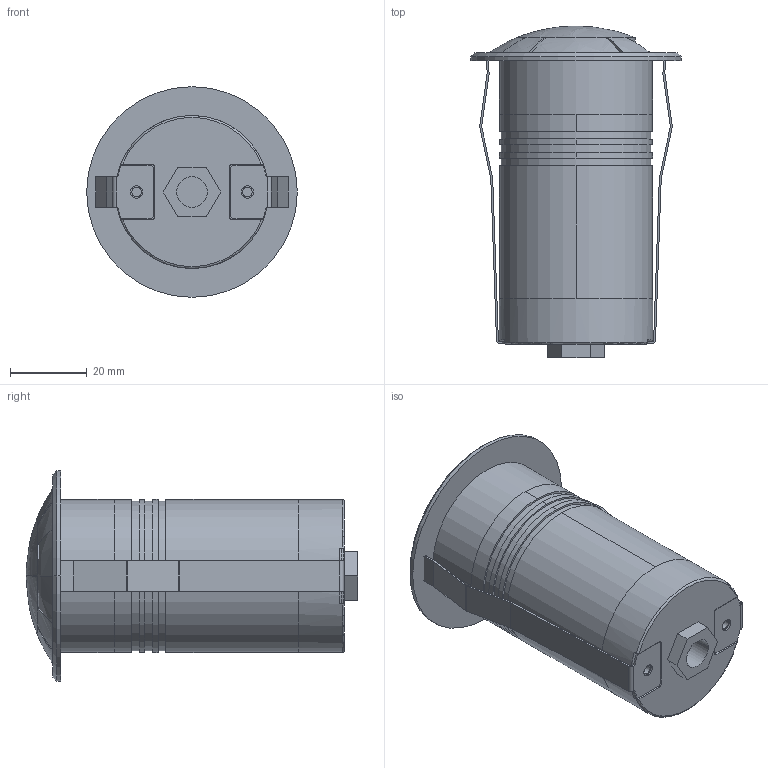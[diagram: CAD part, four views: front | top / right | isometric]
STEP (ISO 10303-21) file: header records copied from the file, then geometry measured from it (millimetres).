
FILE_DESCRIPTION((''),'2;1');
FILE_NAME('ASM0001_ASM_1_ASM_1_ASM_1_ASM','2024-09-04T',('C027'),(''),'CREO PARAMETRIC BY PTC INC, 2014500','CREO PARAMETRIC BY PTC INC, 2014500','');
FILE_SCHEMA(('CONFIG_CONTROL_DESIGN'));
Length unit declared in the file: millimetre
Products named in the file (16): 2W__1_1_1; POWER-BOX_1_1_1; BACK-COVER_1_1_1; ASM0002_ASM_1_ASM_1_ASM_1_ASM; KAHUANG_1_1_1; PRT0011_1_1_1; 2WA-1_1_1_1; BOLI-2_1_1_1; 12A_1_114_1_1_1; PCB-002_1_1_1; MSBR-4_1_1_1; MSBR-6_1_1_1; 00000_1_1_1; 2WA-4_1_1_1; 2WA-2-2; ASM0001_ASM_1_ASM_1_ASM_1_ASM
Assembly tree (15 placements, depth 3):
  ASM0001_ASM_1_ASM_1_ASM_1_ASM
    2W__1_1_1
    POWER-BOX_1_1_1
    ASM0002_ASM_1_ASM_1_ASM_1_ASM
      BACK-COVER_1_1_1
    KAHUANG_1_1_1
    PRT0011_1_1_1
    2WA-1_1_1_1
    BOLI-2_1_1_1
    12A_1_114_1_1_1
    PCB-002_1_1_1
    MSBR-4_1_1_1
    MSBR-6_1_1_1
    00000_1_1_1
    2WA-4_1_1_1
    2WA-2-2
Bounding box: 55 x 86.65 x 55 mm (x, y, z)
Volume: 82870.5 mm3; surface area: 68923.3 mm2
Topology: 14 solids, 14 shells, 467 faces, 1257 edges, 822 vertices
Faces by surface type: plane 218, cylinder 184, cone 38, sphere 14, bspline 9, torus 4
Entity records: 15831 total; most frequent: CARTESIAN_POINT 3392, DIRECTION 2716, ORIENTED_EDGE 2486, EDGE_CURVE 1243, AXIS2_PLACEMENT_3D 1085, VERTEX_POINT 822, CIRCLE 595, VECTOR 546
